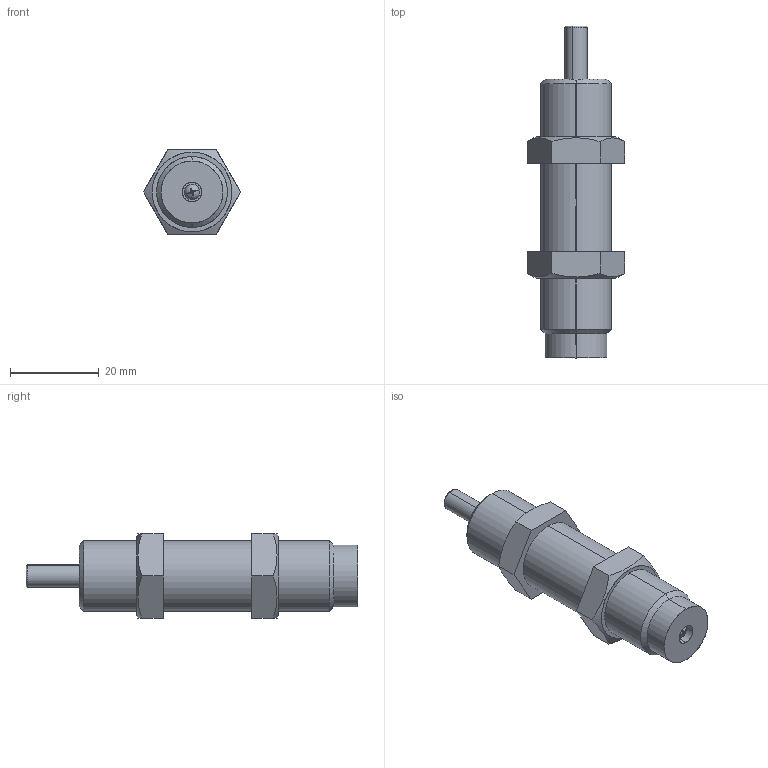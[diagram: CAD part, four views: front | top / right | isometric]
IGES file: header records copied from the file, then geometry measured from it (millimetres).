
Start section: SolidWorks IGES file using analytic representation for surfaces
Bounding box: 21.94 x 75 x 19 mm (x, y, z)
Surface area: 5649.9 mm2 (no closed solid volume)
Topology: 0 solids, 0 shells, 78 faces, 1227 edges, 1227 vertices
Faces by surface type: bspline 46, revolution 32
